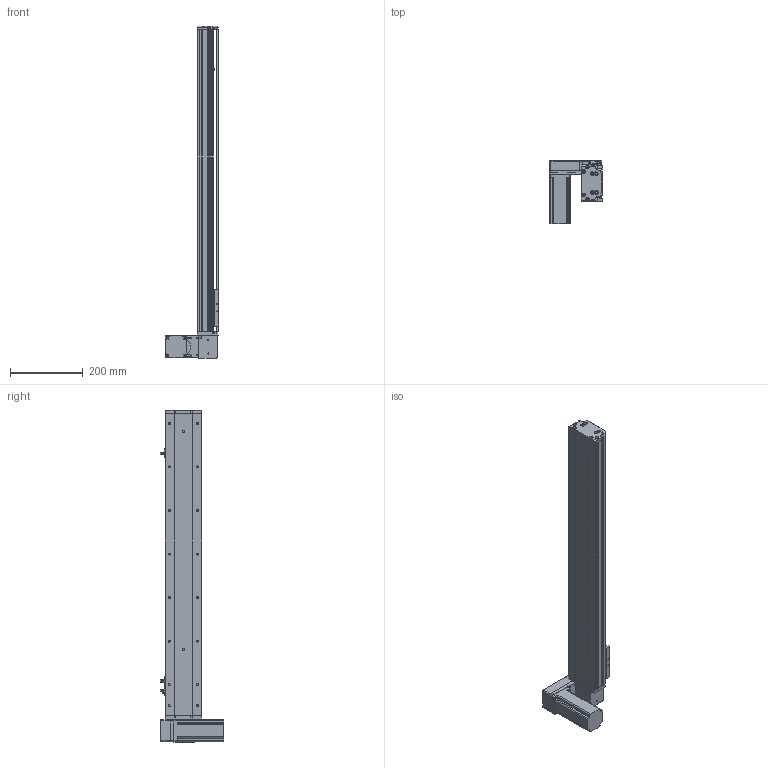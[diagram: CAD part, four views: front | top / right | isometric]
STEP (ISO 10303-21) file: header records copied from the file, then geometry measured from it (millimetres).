
FILE_DESCRIPTION (( 'STEP AP214' ), '1' );
FILE_NAME ('KSD100B-S650-MLD-CM.STEP', '2019-11-11T03:02:01', ( '微软用户' ), ( '微软中国' ), 'SwSTEP 2.0', 'SolidWorks 2014', '' );
FILE_SCHEMA (( 'AUTOMOTIVE_DESIGN' ));
Length unit declared in the file: millimetre
Products named in the file (12): 覜茼え100遵圉猾敕; 100宽防尘板650行程-同步带; 100宽马达安装板同步带左; 100宽同步带安装板半封闭; 100宽马达安装板同步带; 100遵傷啣肮祭湍; 100宽底板半封闭同步带650行程; KSD100B-S650-MLD-CM; 悵誘欶奻狟殏; 100宽马达安装板连板上下折丝杆同步带; 台达ECMA－C20604AS伺服电机; U倰嫖萇EEㄜSX672
Assembly tree (13 placements, depth 2):
  KSD100B-S650-MLD-CM
    100宽底板半封闭同步带650行程
    100遵傷啣肮祭湍
    100宽马达安装板同步带
    100宽同步带安装板半封闭
    100宽马达安装板同步带左
    100宽防尘板650行程-同步带
    覜茼え100遵圉猾敕
    U倰嫖萇EEㄜSX672  x3
    台达ECMA－C20604AS伺服电机
    100宽马达安装板连板上下折丝杆同步带
    悵誘欶奻狟殏
Bounding box: 148 x 174.7 x 915 mm (x, y, z)
Volume: 2274492.8 mm3; surface area: 735421.3 mm2
Topology: 14 solids, 14 shells, 1385 faces, 3888 edges, 2487 vertices
Faces by surface type: cylinder 687, plane 583, cone 115
Entity records: 48645 total; most frequent: CARTESIAN_POINT 9328, DIRECTION 6716, ORIENTED_EDGE 6452, EDGE_CURVE 3226, AXIS2_PLACEMENT_3D 2445, VERTEX_POINT 2111, VECTOR 1826, LINE 1826
